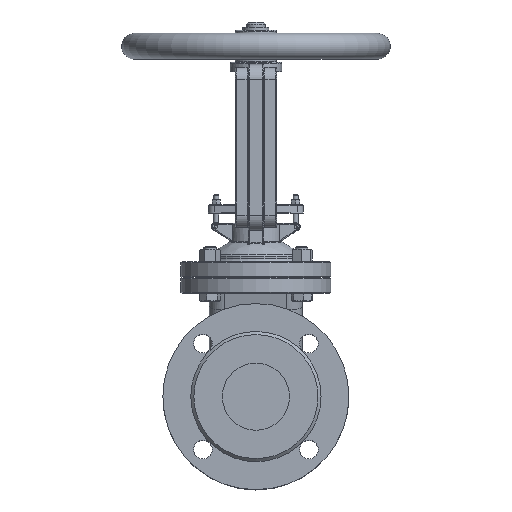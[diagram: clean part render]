
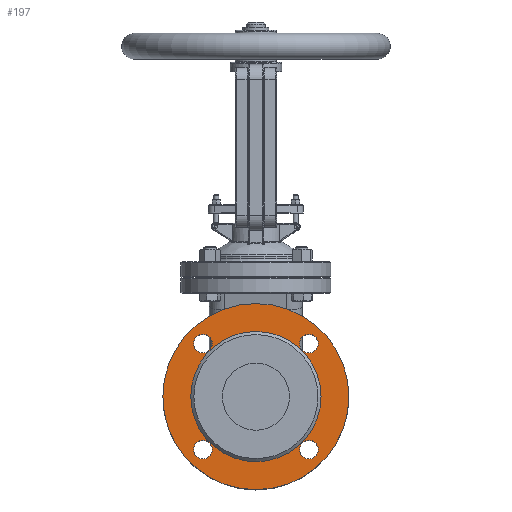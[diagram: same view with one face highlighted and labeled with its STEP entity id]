
A CAD part, top view. The second image highlights one B-rep face of the part: STEP entity #197.
In plain terms, the highlighted planar face has unit normal (0, 0, 1).
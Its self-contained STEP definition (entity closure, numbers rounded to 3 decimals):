
#197=ADVANCED_FACE('',(#7051,#7053,#7055,#7057,#7059,#7061),#7063,.T.);
#7051=FACE_BOUND('',#7052,.T.);
#7052=EDGE_LOOP('',(#17290));
#7053=FACE_BOUND('',#7054,.T.);
#7054=EDGE_LOOP('',(#17291));
#7055=FACE_BOUND('',#7056,.T.);
#7056=EDGE_LOOP('',(#17292));
#7057=FACE_BOUND('',#7058,.T.);
#7058=EDGE_LOOP('',(#17293));
#7059=FACE_BOUND('',#7060,.T.);
#7060=EDGE_LOOP('',(#17294));
#7061=FACE_BOUND('',#7062,.T.);
#7062=EDGE_LOOP('',(#17295));
#7063=PLANE('',#7064);
#7064=AXIS2_PLACEMENT_3D('',#7065,#7066,#7067);
#7065=CARTESIAN_POINT('',(0.,0.,94.5));
#7066=DIRECTION('',(0.,0.,1.));
#7067=DIRECTION('',(0.,1.,0.));
#17290=ORIENTED_EDGE('',*,*,#20864,.F.);
#17291=ORIENTED_EDGE('',*,*,#20865,.T.);
#17292=ORIENTED_EDGE('',*,*,#20866,.T.);
#17293=ORIENTED_EDGE('',*,*,#20867,.T.);
#17294=ORIENTED_EDGE('',*,*,#20862,.T.);
#17295=ORIENTED_EDGE('',*,*,#20868,.T.);
#20862=EDGE_CURVE('',#22658,#22658,#22659,.T.);
#20864=EDGE_CURVE('',#22662,#22662,#22663,.T.);
#20865=EDGE_CURVE('',#22664,#22664,#22665,.F.);
#20866=EDGE_CURVE('',#22666,#22666,#22667,.F.);
#20867=EDGE_CURVE('',#22668,#22668,#22669,.F.);
#20868=EDGE_CURVE('',#22670,#22670,#22671,.F.);
#22658=VERTEX_POINT('',#25591);
#22659=CIRCLE('',#25592,63.);
#22662=VERTEX_POINT('',#25601);
#22663=CIRCLE('',#25602,90.);
#22664=VERTEX_POINT('',#25606);
#22665=CIRCLE('',#25607,9.);
#22666=VERTEX_POINT('',#25611);
#22667=CIRCLE('',#25612,9.);
#22668=VERTEX_POINT('',#25616);
#22669=CIRCLE('',#25617,9.);
#22670=VERTEX_POINT('',#25621);
#22671=CIRCLE('',#25622,9.);
#25591=CARTESIAN_POINT('',(0.,63.,94.5));
#25592=AXIS2_PLACEMENT_3D('',#25593,#25594,#25595);
#25593=CARTESIAN_POINT('',(0.,0.,94.5));
#25594=DIRECTION('',(0.,0.,-1.));
#25595=DIRECTION('',(0.,1.,0.));
#25601=CARTESIAN_POINT('',(0.,90.,94.5));
#25602=AXIS2_PLACEMENT_3D('',#25603,#25604,#25605);
#25603=CARTESIAN_POINT('',(0.,0.,94.5));
#25604=DIRECTION('',(0.,0.,-1.));
#25605=DIRECTION('',(0.,1.,0.));
#25606=CARTESIAN_POINT('',(51.265,-60.265,94.5));
#25607=AXIS2_PLACEMENT_3D('',#25608,#25609,#25610);
#25608=CARTESIAN_POINT('',(51.265,-51.265,94.5));
#25609=DIRECTION('',(0.,0.,1.));
#25610=DIRECTION('',(0.,-1.,0.));
#25611=CARTESIAN_POINT('',(-60.265,-51.265,94.5));
#25612=AXIS2_PLACEMENT_3D('',#25613,#25614,#25615);
#25613=CARTESIAN_POINT('',(-51.265,-51.265,94.5));
#25614=DIRECTION('',(0.,0.,1.));
#25615=DIRECTION('',(-1.,0.,0.));
#25616=CARTESIAN_POINT('',(-51.265,60.265,94.5));
#25617=AXIS2_PLACEMENT_3D('',#25618,#25619,#25620);
#25618=CARTESIAN_POINT('',(-51.265,51.265,94.5));
#25619=DIRECTION('',(0.,0.,1.));
#25620=DIRECTION('',(0.,1.,0.));
#25621=CARTESIAN_POINT('',(60.265,51.265,94.5));
#25622=AXIS2_PLACEMENT_3D('',#25623,#25624,#25625);
#25623=CARTESIAN_POINT('',(51.265,51.265,94.5));
#25624=DIRECTION('',(0.,0.,1.));
#25625=DIRECTION('',(1.,0.,0.));
